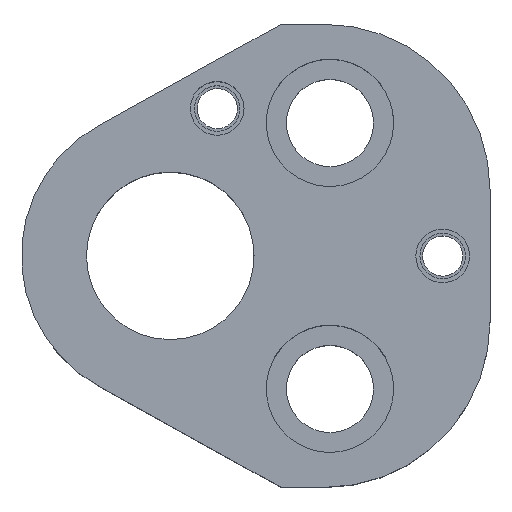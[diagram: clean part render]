
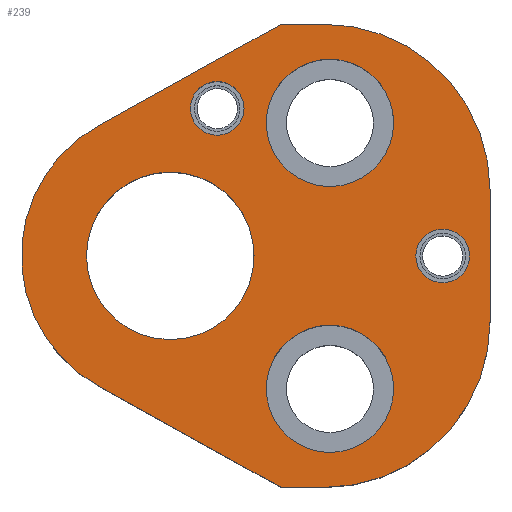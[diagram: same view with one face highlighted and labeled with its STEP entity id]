
A CAD part, top view. The second image highlights one B-rep face of the part: STEP entity #239.
In plain terms, the highlighted planar face has unit normal (0, 0, 1).
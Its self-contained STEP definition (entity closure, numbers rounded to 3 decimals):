
#113=FACE_BOUND('',#339,.T.);
#114=FACE_BOUND('',#340,.T.);
#115=FACE_BOUND('',#341,.T.);
#116=FACE_BOUND('',#342,.T.);
#117=FACE_BOUND('',#343,.T.);
#118=FACE_BOUND('',#344,.T.);
#152=CIRCLE('',#816,24.7);
#154=CIRCLE('',#820,24.7);
#157=CIRCLE('',#826,22.2);
#182=CIRCLE('',#865,4.);
#184=CIRCLE('',#868,4.);
#186=CIRCLE('',#872,4.);
#188=CIRCLE('',#875,4.);
#194=CIRCLE('',#887,9.5);
#195=CIRCLE('',#888,9.5);
#196=CIRCLE('',#889,9.5);
#197=CIRCLE('',#890,9.5);
#198=CIRCLE('',#891,12.5);
#199=CIRCLE('',#892,12.5);
#239=ADVANCED_FACE('',(#113,#114,#115,#116,#117,#118),#261,.T.);
#261=PLANE('',#893);
#339=EDGE_LOOP('',(#497,#498,#499,#500,#501,#502,#503,#504));
#340=EDGE_LOOP('',(#505,#506));
#341=EDGE_LOOP('',(#507,#508));
#342=EDGE_LOOP('',(#509,#510));
#343=EDGE_LOOP('',(#511,#512));
#344=EDGE_LOOP('',(#513,#514));
#497=ORIENTED_EDGE('',*,*,#626,.T.);
#498=ORIENTED_EDGE('',*,*,#630,.T.);
#499=ORIENTED_EDGE('',*,*,#633,.T.);
#500=ORIENTED_EDGE('',*,*,#636,.T.);
#501=ORIENTED_EDGE('',*,*,#639,.T.);
#502=ORIENTED_EDGE('',*,*,#642,.T.);
#503=ORIENTED_EDGE('',*,*,#645,.T.);
#504=ORIENTED_EDGE('',*,*,#648,.T.);
#505=ORIENTED_EDGE('',*,*,#703,.F.);
#506=ORIENTED_EDGE('',*,*,#704,.F.);
#507=ORIENTED_EDGE('',*,*,#705,.F.);
#508=ORIENTED_EDGE('',*,*,#706,.F.);
#509=ORIENTED_EDGE('',*,*,#693,.F.);
#510=ORIENTED_EDGE('',*,*,#689,.F.);
#511=ORIENTED_EDGE('',*,*,#687,.F.);
#512=ORIENTED_EDGE('',*,*,#683,.F.);
#513=ORIENTED_EDGE('',*,*,#707,.T.);
#514=ORIENTED_EDGE('',*,*,#708,.T.);
#560=VERTEX_POINT('',#1160);
#561=VERTEX_POINT('',#1162);
#564=VERTEX_POINT('',#1169);
#566=VERTEX_POINT('',#1175);
#568=VERTEX_POINT('',#1181);
#570=VERTEX_POINT('',#1187);
#572=VERTEX_POINT('',#1193);
#574=VERTEX_POINT('',#1199);
#599=VERTEX_POINT('',#1278);
#600=VERTEX_POINT('',#1279);
#603=VERTEX_POINT('',#1291);
#604=VERTEX_POINT('',#1292);
#611=VERTEX_POINT('',#1320);
#612=VERTEX_POINT('',#1321);
#613=VERTEX_POINT('',#1324);
#614=VERTEX_POINT('',#1325);
#615=VERTEX_POINT('',#1328);
#616=VERTEX_POINT('',#1329);
#626=EDGE_CURVE('',#561,#560,#726,.T.);
#630=EDGE_CURVE('',#560,#564,#730,.T.);
#633=EDGE_CURVE('',#564,#566,#152,.T.);
#636=EDGE_CURVE('',#566,#568,#734,.T.);
#639=EDGE_CURVE('',#568,#570,#154,.T.);
#642=EDGE_CURVE('',#570,#572,#738,.T.);
#645=EDGE_CURVE('',#572,#574,#741,.T.);
#648=EDGE_CURVE('',#574,#561,#157,.T.);
#683=EDGE_CURVE('',#599,#600,#182,.T.);
#687=EDGE_CURVE('',#600,#599,#184,.T.);
#689=EDGE_CURVE('',#603,#604,#186,.T.);
#693=EDGE_CURVE('',#604,#603,#188,.T.);
#703=EDGE_CURVE('',#611,#612,#194,.T.);
#704=EDGE_CURVE('',#612,#611,#195,.T.);
#705=EDGE_CURVE('',#613,#614,#196,.T.);
#706=EDGE_CURVE('',#614,#613,#197,.T.);
#707=EDGE_CURVE('',#615,#616,#198,.T.);
#708=EDGE_CURVE('',#616,#615,#199,.T.);
#726=LINE('',#1161,#770);
#730=LINE('',#1170,#774);
#734=LINE('',#1182,#778);
#738=LINE('',#1194,#782);
#741=LINE('',#1200,#785);
#770=VECTOR('',#916,1.);
#774=VECTOR('',#922,1.);
#778=VECTOR('',#934,1.);
#782=VECTOR('',#946,1.);
#785=VECTOR('',#951,1.);
#816=AXIS2_PLACEMENT_3D('',#1176,#927,#928);
#820=AXIS2_PLACEMENT_3D('',#1188,#939,#940);
#826=AXIS2_PLACEMENT_3D('',#1204,#957,#958);
#865=AXIS2_PLACEMENT_3D('',#1277,#1045,#1046);
#868=AXIS2_PLACEMENT_3D('',#1286,#1053,#1054);
#872=AXIS2_PLACEMENT_3D('',#1290,#1061,#1062);
#875=AXIS2_PLACEMENT_3D('',#1299,#1069,#1070);
#887=AXIS2_PLACEMENT_3D('',#1319,#1097,#1098);
#888=AXIS2_PLACEMENT_3D('',#1322,#1099,#1100);
#889=AXIS2_PLACEMENT_3D('',#1323,#1101,#1102);
#890=AXIS2_PLACEMENT_3D('',#1326,#1103,#1104);
#891=AXIS2_PLACEMENT_3D('',#1327,#1105,#1106);
#892=AXIS2_PLACEMENT_3D('',#1330,#1107,#1108);
#893=AXIS2_PLACEMENT_3D('',#1331,#1109,#1110);
#916=DIRECTION('',(0.875,-0.485,0.));
#922=DIRECTION('',(1.,0.,0.));
#927=DIRECTION('',(0.,0.,1.));
#928=DIRECTION('',(-0.707,0.707,0.));
#934=DIRECTION('',(0.,1.,0.));
#939=DIRECTION('',(0.,0.,1.));
#940=DIRECTION('',(-0.707,-0.707,0.));
#946=DIRECTION('',(-1.,0.,0.));
#951=DIRECTION('',(-0.875,-0.485,0.));
#957=DIRECTION('',(0.,0.,1.));
#958=DIRECTION('',(1.,0.,0.));
#1045=DIRECTION('',(0.,0.,1.));
#1046=DIRECTION('',(-1.,0.,0.));
#1053=DIRECTION('',(0.,0.,1.));
#1054=DIRECTION('',(1.,0.,0.));
#1061=DIRECTION('',(0.,0.,1.));
#1062=DIRECTION('',(-1.,0.,0.));
#1069=DIRECTION('',(0.,0.,1.));
#1070=DIRECTION('',(1.,0.,0.));
#1097=DIRECTION('',(0.,0.,1.));
#1098=DIRECTION('',(1.,0.,0.));
#1099=DIRECTION('',(0.,0.,1.));
#1100=DIRECTION('',(-1.,0.,0.));
#1101=DIRECTION('',(0.,0.,1.));
#1102=DIRECTION('',(1.,0.,0.));
#1103=DIRECTION('',(0.,0.,1.));
#1104=DIRECTION('',(-1.,0.,0.));
#1105=DIRECTION('',(0.,0.,-1.));
#1106=DIRECTION('',(-1.,0.,0.));
#1107=DIRECTION('',(0.,0.,-1.));
#1108=DIRECTION('',(1.,0.,0.));
#1109=DIRECTION('',(0.,0.,1.));
#1110=DIRECTION('',(-0.875,0.485,0.));
#1160=CARTESIAN_POINT('',(16.539,-34.55,25.));
#1161=CARTESIAN_POINT('',(16.539,-34.55,25.));
#1162=CARTESIAN_POINT('',(-10.763,-19.417,25.));
#1169=CARTESIAN_POINT('',(23.,-34.55,25.));
#1170=CARTESIAN_POINT('',(16.539,-34.55,25.));
#1175=CARTESIAN_POINT('',(47.7,-9.85,25.));
#1176=CARTESIAN_POINT('',(23.,-9.85,25.));
#1181=CARTESIAN_POINT('',(47.7,9.85,25.));
#1182=CARTESIAN_POINT('',(47.7,9.85,25.));
#1187=CARTESIAN_POINT('',(23.,34.55,25.));
#1188=CARTESIAN_POINT('',(23.,9.85,25.));
#1193=CARTESIAN_POINT('',(16.539,34.55,25.));
#1194=CARTESIAN_POINT('',(16.539,34.55,25.));
#1199=CARTESIAN_POINT('',(-10.763,19.417,25.));
#1200=CARTESIAN_POINT('',(16.539,34.55,25.));
#1204=CARTESIAN_POINT('',(0.,0.,25.));
#1277=CARTESIAN_POINT('',(7.,22.,25.));
#1278=CARTESIAN_POINT('',(7.,18.,25.));
#1279=CARTESIAN_POINT('',(7.,26.,25.));
#1286=CARTESIAN_POINT('',(7.,22.,25.));
#1290=CARTESIAN_POINT('',(40.64,0.,25.));
#1291=CARTESIAN_POINT('',(40.64,-4.,25.));
#1292=CARTESIAN_POINT('',(40.64,4.,25.));
#1299=CARTESIAN_POINT('',(40.64,0.,25.));
#1319=CARTESIAN_POINT('',(23.82,19.84,25.));
#1320=CARTESIAN_POINT('',(23.82,29.34,25.));
#1321=CARTESIAN_POINT('',(23.82,10.34,25.));
#1322=CARTESIAN_POINT('',(23.82,19.84,25.));
#1323=CARTESIAN_POINT('',(23.82,-19.84,25.));
#1324=CARTESIAN_POINT('',(23.82,-10.34,25.));
#1325=CARTESIAN_POINT('',(23.82,-29.34,25.));
#1326=CARTESIAN_POINT('',(23.82,-19.84,25.));
#1327=CARTESIAN_POINT('',(0.,0.,25.));
#1328=CARTESIAN_POINT('',(0.,12.5,25.));
#1329=CARTESIAN_POINT('',(0.,-12.5,25.));
#1330=CARTESIAN_POINT('',(0.,0.,25.));
#1331=CARTESIAN_POINT('',(-10.763,-19.417,25.));
